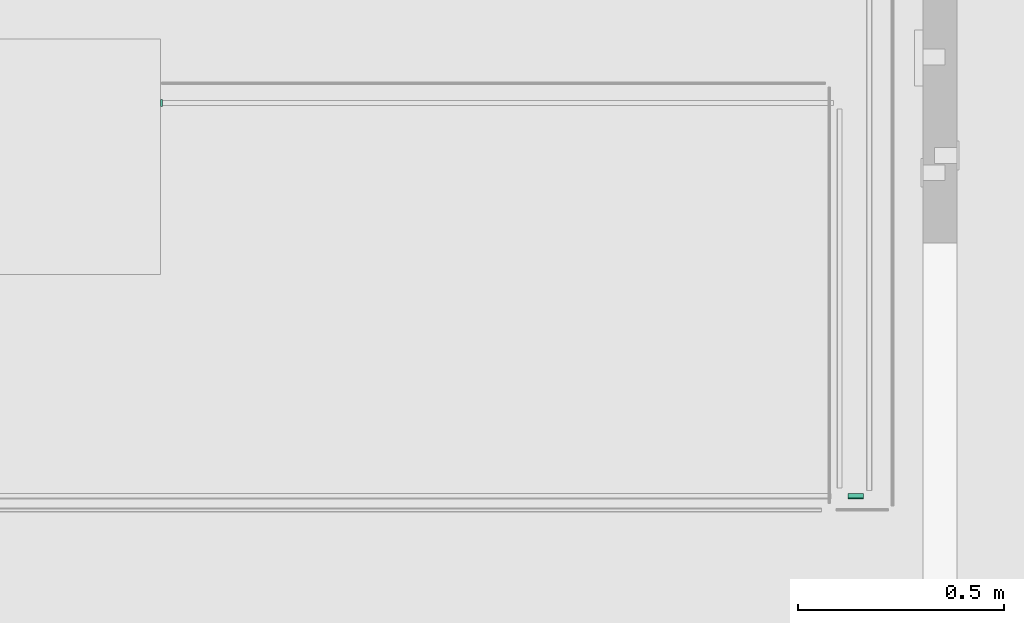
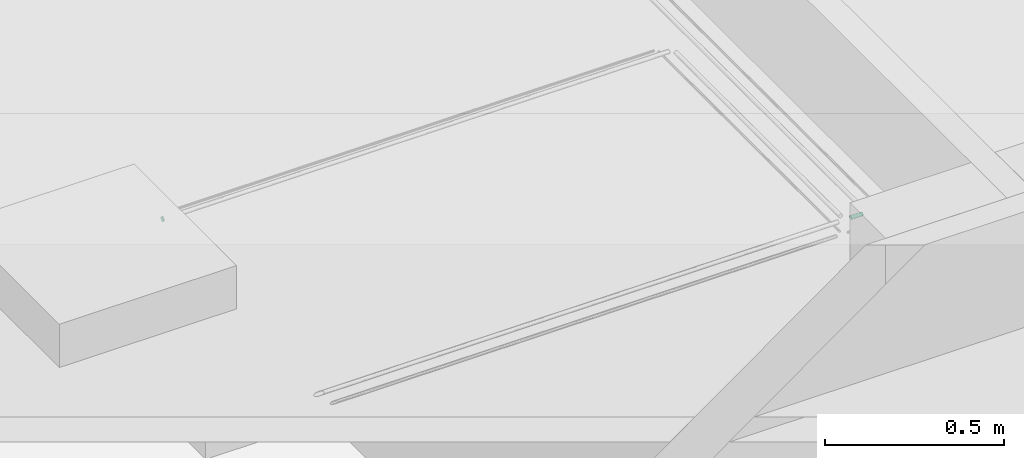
# One storey, part 18 of 22: 1 flow fitting, 1 flow segment.
"""IFC2X3 building model written with IfcOpenShell, lengths in millimetres."""

from ifc_helpers import new_model, entity, si_unit, converted_unit, derived_unit, direction, frame, origin, origin_2d_with_axis, place, context, subcontext, project, spatial, circle, extrude, source, transform, mapped, material, type_object, type_shapes, element, save


model = new_model("IFC2X3")

# Units and contexts
model_context = context("Model", 3, precision=0.01, world=origin(), true_north=direction((6.123031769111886e-17, 1.0)))
body_context = subcontext(model_context, "Body", "Model", "MODEL_VIEW")
ifc_project = project(units=[si_unit("LENGTHUNIT", "METRE", prefix="MILLI"), si_unit("AREAUNIT", "SQUARE_METRE"), si_unit("VOLUMEUNIT", "CUBIC_METRE"), converted_unit("PLANEANGLEUNIT", "DEGREE", entity("IfcRatioMeasure", 0.017453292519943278), si_unit("PLANEANGLEUNIT", "RADIAN"), dimensions=[0, 0, 0, 0, 0, 0, 0]), si_unit("MASSUNIT", "GRAM", prefix="KILO"), derived_unit("MASSDENSITYUNIT", [(si_unit("MASSUNIT", "GRAM", prefix="KILO"), 1), (si_unit("LENGTHUNIT", "METRE"), -3)]), derived_unit("MOMENTOFINERTIAUNIT", [(si_unit("LENGTHUNIT", "METRE"), 4)]), si_unit("TIMEUNIT", "SECOND"), si_unit("FREQUENCYUNIT", "HERTZ"), si_unit("THERMODYNAMICTEMPERATUREUNIT", "DEGREE_CELSIUS"), derived_unit("THERMALTRANSMITTANCEUNIT", [(si_unit("MASSUNIT", "GRAM", prefix="KILO"), 1), (si_unit("THERMODYNAMICTEMPERATUREUNIT", "KELVIN"), -1), (si_unit("TIMEUNIT", "SECOND"), -3)]), derived_unit("VOLUMETRICFLOWRATEUNIT", [(si_unit("LENGTHUNIT", "METRE"), 3), (si_unit("TIMEUNIT", "SECOND"), -1)]), derived_unit("MASSFLOWRATEUNIT", [(si_unit("MASSUNIT", "GRAM", prefix="KILO"), 1), (si_unit("TIMEUNIT", "SECOND"), -1)]), derived_unit("ROTATIONALFREQUENCYUNIT", [(si_unit("TIMEUNIT", "SECOND"), -1)]), si_unit("ELECTRICCURRENTUNIT", "AMPERE"), si_unit("ELECTRICVOLTAGEUNIT", "VOLT"), si_unit("POWERUNIT", "WATT"), si_unit("FORCEUNIT", "NEWTON", prefix="KILO"), si_unit("ILLUMINANCEUNIT", "LUX"), si_unit("LUMINOUSFLUXUNIT", "LUMEN"), si_unit("LUMINOUSINTENSITYUNIT", "CANDELA"), derived_unit("USERDEFINED", [(si_unit("MASSUNIT", "GRAM", prefix="KILO"), -1), (si_unit("LENGTHUNIT", "METRE"), -2), (si_unit("TIMEUNIT", "SECOND"), 3), (si_unit("LUMINOUSFLUXUNIT", "LUMEN"), 1)]), derived_unit("SOUNDPOWERUNIT", [(si_unit("MASSUNIT", "GRAM", prefix="KILO"), 1), (si_unit("LENGTHUNIT", "METRE"), 2), (si_unit("TIMEUNIT", "SECOND"), -3)]), derived_unit("SOUNDPRESSUREUNIT", [(si_unit("MASSUNIT", "GRAM", prefix="KILO"), 1), (si_unit("LENGTHUNIT", "METRE"), -1), (si_unit("TIMEUNIT", "SECOND"), -2)]), derived_unit("LINEARVELOCITYUNIT", [(si_unit("LENGTHUNIT", "METRE"), 1), (si_unit("TIMEUNIT", "SECOND"), -1)]), si_unit("PRESSUREUNIT", "PASCAL"), derived_unit("USERDEFINED", [(si_unit("LENGTHUNIT", "METRE"), -2), (si_unit("MASSUNIT", "GRAM", prefix="KILO"), 1), (si_unit("TIMEUNIT", "SECOND"), -2)]), derived_unit("LINEARFORCEUNIT", [(si_unit("MASSUNIT", "GRAM", prefix="KILO"), 1), (si_unit("LENGTHUNIT", "METRE"), 1), (si_unit("TIMEUNIT", "SECOND"), -2), (si_unit("LENGTHUNIT", "METRE"), -1)]), derived_unit("PLANARFORCEUNIT", [(si_unit("MASSUNIT", "GRAM", prefix="KILO"), 1), (si_unit("LENGTHUNIT", "METRE"), 1), (si_unit("TIMEUNIT", "SECOND"), -2), (si_unit("LENGTHUNIT", "METRE"), -2)])], contexts=[model_context])

# Site, building, storey
site_placement = place(None, origin())
site = spatial("IfcSite", under=ifc_project, at=site_placement, Name="Default", CompositionType="ELEMENT")
building_placement = place(site_placement, origin())
building = spatial("IfcBuilding", under=site, at=building_placement, CompositionType="ELEMENT")
storey_placement = place(building_placement, frame((0.0, 0.0, 3300.0)))
storey = spatial("IfcBuildingStorey", under=building, at=storey_placement, Name="Level 2", CompositionType="ELEMENT", Elevation=3299.99999999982)

# Flow segment
ifc_material = material(Name="<Unnamed>")
pipe_segment_type = type_object("IfcPipeSegmentType", Name="Pipe Types:Standard:Standard : Pipe Types:Standard", PredefinedType="NOTDEFINED", material=ifc_material)
shared_shape_1 = source(origin(), body_context, "Body", "SweptSolid", [
    extrude(circle(Radius=6.35, at=origin_2d_with_axis()), frame((-177.718625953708, 1578.5631845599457, 6010.0), z_axis=(1.0, 0.0, 0.0), x_axis=(0.0, 1.0, 0.0)), (0.0, 0.0, 1.0), 37.1279743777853),
])
type_shapes(pipe_segment_type, [shared_shape_1])
flow_segment_placement = place(storey_placement, frame((0.0, 0.0, -3300.0)))
element("IfcFlowSegment", 1, at=flow_segment_placement, inside=storey, type_object=pipe_segment_type, material=ifc_material, Name="Pipe Types:Standard:Standard : Pipe Types:Standard:Standard:Standard : Pipe Types:Standard : Pipe Types:Standard:Standard : Pipe Types:Standard", ObjectType="Pipe Types:Standard:Standard : Pipe Types:Standard:Standard:Standard : Pipe Types:Standard : Pipe Types:Standard:Standard : Pipe Types:Standard", context=body_context, shape_type="MappedRepresentation", body=[
    mapped(shared_shape_1, transform((0.0, 0.0, 0.0), scale=1.0)),
])

# Flow fitting
pipe_fitting_type = type_object("IfcPipeFittingType", Name="M_Transition - Generic:Standard:Standard : M_Transition - Generic:Standard", PredefinedType="NOTDEFINED", material=ifc_material)
shared_shape_2 = source(origin(), body_context, "Body", "SweptSolid", [
    extrude(circle(Radius=7.937500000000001, at=origin_2d_with_axis()), frame((-1843.3561259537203, 2531.16185450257, 6010.0), z_axis=(1.0, 0.0, 0.0), x_axis=(0.0, 0.0, 1.0)), (0.0, 0.0, 1.0), 3.96874999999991),
])
type_shapes(pipe_fitting_type, [shared_shape_2])
flow_fitting_placement = place(storey_placement, frame((0.0, 0.0, -3300.0)))
element("IfcFlowFitting", 2, at=flow_fitting_placement, inside=storey, type_object=pipe_fitting_type, material=ifc_material, Name="M_Transition - Generic:Standard:Standard : M_Transition - Generic:Standard:Standard:Standard : M_Transition - Generic:Standard : M_Transition - Generic:Standard:Standard : M_Transition - Generic:Standard", ObjectType="M_Transition - Generic:Standard:Standard : M_Transition - Generic:Standard:Standard:Standard : M_Transition - Generic:Standard : M_Transition - Generic:Standard:Standard : M_Transition - Generic:Standard", context=body_context, shape_type="MappedRepresentation", body=[
    mapped(shared_shape_2, transform((0.0, 0.0, 0.0), scale=1.0)),
])

save(model, "model.ifc")
